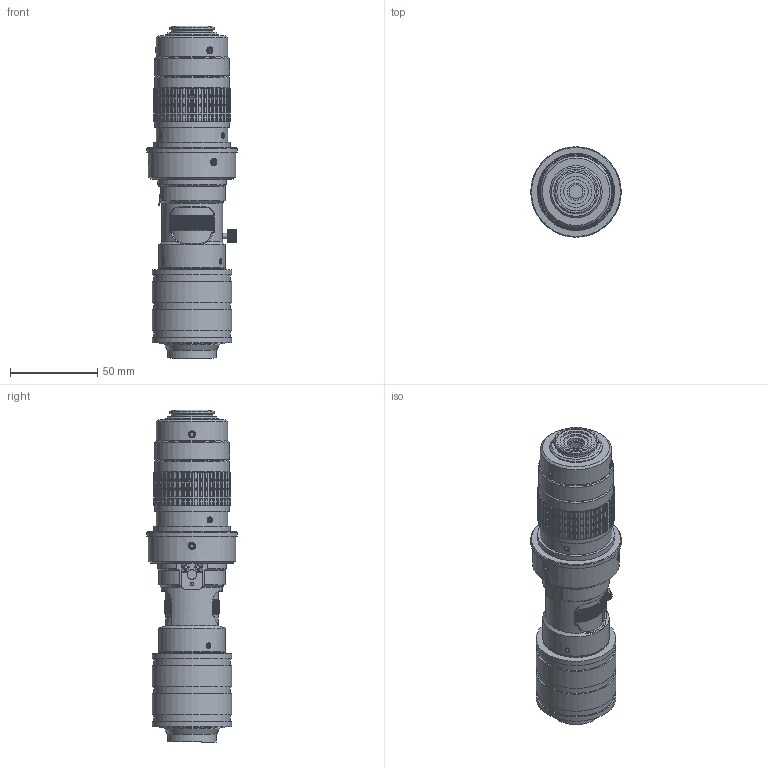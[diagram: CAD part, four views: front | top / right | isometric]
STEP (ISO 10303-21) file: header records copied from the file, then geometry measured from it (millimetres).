
FILE_DESCRIPTION(('STEP AP214'),'1');
FILE_NAME('SDS-FZR.stp','2023-04-24T08:54:06',(' '),(' '),'Spatial InterOp 3D',' ',' ');
FILE_SCHEMA(('AUTOMOTIVE_DESIGN { 1 0 10303 214 1 1 1 1 }'));
Length unit declared in the file: metre
Products named in the file (2): SDS-FZR; Component1
Assembly tree (1 placements, depth 2):
  SDS-FZR
    Component1
Bounding box: 51.9 x 51.9 x 190.3 mm (x, y, z)
Volume: 236044.4 mm3; surface area: 46747.5 mm2
Topology: 1 solids, 1 shells, 2976 faces, 7847 edges, 5017 vertices
Faces by surface type: plane 2071, cylinder 826, cone 51, bspline 25, torus 2, sphere 1
Full cylindrical faces by diameter (mm): 3 x12, 3.7 x2, 4 x3, 5.5 x1, 8 x1, 10 x1, 14 x2, 18 x2, 19.5 x1, 22 x1, 24 x1, 25 x1, 25.4 x1, 26 x1, 28 x1, 30 x3, 31.5 x1, 33 x1, 35 x1, 37 x2, 38 x2, 39.6 x1, 39.7 x1, 41 x2, 42 x2, 43 x3, 43.2 x1, 44 x4, 45.8 x4, 50 x1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
Entity records: 127089 total; most frequent: CARTESIAN_POINT 31520, ORIENTED_EDGE 15356, DIRECTION 13934, EDGE_CURVE 7678, LINE 5410, VECTOR 5410, VERTEX_POINT 4964, AXIS2_PLACEMENT_3D 4262
